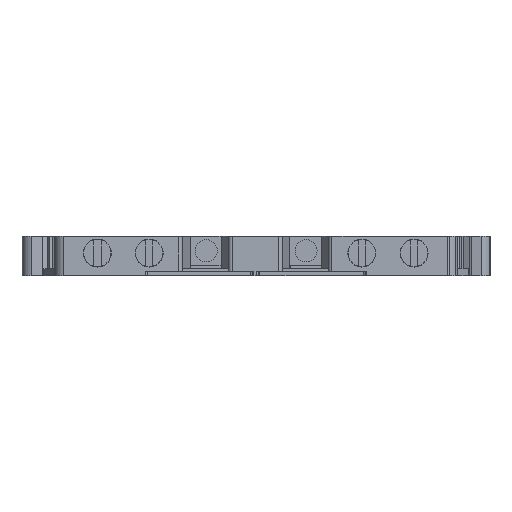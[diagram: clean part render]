
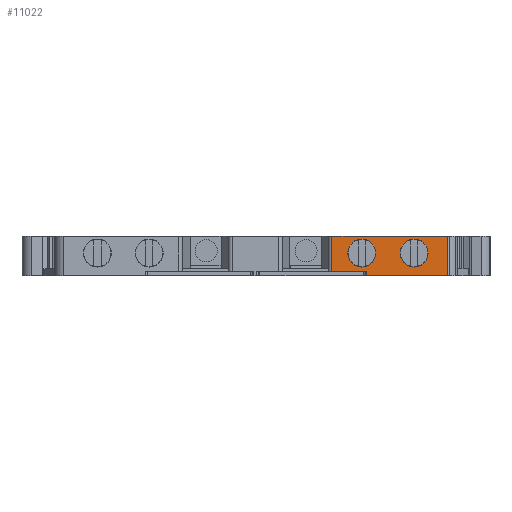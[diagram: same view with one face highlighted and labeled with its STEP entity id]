
A CAD part, front view. The second image highlights one B-rep face of the part: STEP entity #11022.
In plain terms, the highlighted planar face has unit normal (0, -1, 0).
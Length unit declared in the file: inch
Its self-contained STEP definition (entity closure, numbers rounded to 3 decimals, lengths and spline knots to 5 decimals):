
#343=DIRECTION('',(1.,0.,0.));
#344=VECTOR('',#343,11.04748);
#345=CARTESIAN_POINT('',(21.77623,-73.26484,0.));
#346=LINE('',#345,#344);
#1935=DIRECTION('',(0.,0.,-1.));
#1936=VECTOR('',#1935,4.8);
#1937=CARTESIAN_POINT('',(17.07655,-73.26484,5.4));
#1938=LINE('',#1937,#1936);
#3751=DIRECTION('',(0.,0.,-1.));
#3752=VECTOR('',#3751,0.6);
#3753=CARTESIAN_POINT('',(21.77623,-73.26484,0.6));
#3754=LINE('',#3753,#3752);
#3759=DIRECTION('',(-1.,0.,0.));
#3760=VECTOR('',#3759,4.69969);
#3761=CARTESIAN_POINT('',(21.77623,-73.26484,0.6));
#3762=LINE('',#3761,#3760);
#3763=DIRECTION('',(1.,0.,0.));
#3764=VECTOR('',#3763,15.74716);
#3765=CARTESIAN_POINT('',(17.07655,-73.26484,5.4));
#3766=LINE('',#3765,#3764);
#3767=CARTESIAN_POINT('',(21.14599,-73.26484,3.1));
#3768=DIRECTION('',(0.,-1.,0.));
#3769=DIRECTION('',(-1.,0.,0.));
#3770=AXIS2_PLACEMENT_3D('',#3767,#3768,#3769);
#3772=CARTESIAN_POINT('',(21.14599,-73.26484,3.1));
#3773=DIRECTION('',(0.,-1.,0.));
#3774=DIRECTION('',(1.,0.,0.));
#3775=AXIS2_PLACEMENT_3D('',#3772,#3773,#3774);
#3777=CARTESIAN_POINT('',(28.25168,-73.26278,3.1));
#3778=DIRECTION('',(0.,-1.,0.));
#3779=DIRECTION('',(-1.,0.,0.));
#3780=AXIS2_PLACEMENT_3D('',#3777,#3778,#3779);
#3782=CARTESIAN_POINT('',(28.25168,-73.26278,3.1));
#3783=DIRECTION('',(0.,-1.,0.));
#3784=DIRECTION('',(1.,0.,0.));
#3785=AXIS2_PLACEMENT_3D('',#3782,#3783,#3784);
#3787=DIRECTION('',(0.,0.,1.));
#3788=VECTOR('',#3787,5.4);
#3789=CARTESIAN_POINT('',(32.82371,-73.26484,0.));
#3790=LINE('',#3789,#3788);
#4956=CARTESIAN_POINT('',(21.77623,-73.26484,0.));
#4957=VERTEX_POINT('',#4956);
#4958=CARTESIAN_POINT('',(32.82371,-73.26484,0.));
#4959=VERTEX_POINT('',#4958);
#5273=CARTESIAN_POINT('',(32.82371,-73.26484,5.4));
#5274=VERTEX_POINT('',#5273);
#5275=CARTESIAN_POINT('',(17.07655,-73.26484,5.4));
#5276=VERTEX_POINT('',#5275);
#5985=CARTESIAN_POINT('',(21.77623,-73.26484,0.6));
#5986=VERTEX_POINT('',#5985);
#5987=CARTESIAN_POINT('',(17.07655,-73.26484,0.6));
#5988=VERTEX_POINT('',#5987);
#5989=CARTESIAN_POINT('',(19.24599,-73.26484,3.1));
#5990=CARTESIAN_POINT('',(23.04599,-73.26484,3.1));
#5991=VERTEX_POINT('',#5989);
#5992=VERTEX_POINT('',#5990);
#5993=CARTESIAN_POINT('',(26.35168,-73.26296,3.1));
#5994=CARTESIAN_POINT('',(30.15168,-73.26259,3.1));
#5995=VERTEX_POINT('',#5993);
#5996=VERTEX_POINT('',#5994);
#10996=CARTESIAN_POINT('',(16.57655,-73.26484,5.2));
#10997=DIRECTION('',(0.,-1.,0.));
#10998=DIRECTION('',(1.,0.,0.));
#10999=AXIS2_PLACEMENT_3D('',#10996,#10997,#10998);
#11000=PLANE('',#10999);
#11001=ORIENTED_EDGE('',*,*,#10988,.F.);
#11002=ORIENTED_EDGE('',*,*,#8357,.T.);
#11003=ORIENTED_EDGE('',*,*,#8333,.F.);
#11004=ORIENTED_EDGE('',*,*,#6930,.T.);
#11006=ORIENTED_EDGE('',*,*,#11005,.F.);
#11007=ORIENTED_EDGE('',*,*,#6517,.F.);
#11008=EDGE_LOOP('',(#11001,#11002,#11003,#11004,#11006,#11007));
#11009=FACE_OUTER_BOUND('',#11008,.F.);
#11011=ORIENTED_EDGE('',*,*,#11010,.T.);
#11013=ORIENTED_EDGE('',*,*,#11012,.T.);
#11014=EDGE_LOOP('',(#11011,#11013));
#11015=FACE_BOUND('',#11014,.F.);
#11017=ORIENTED_EDGE('',*,*,#11016,.T.);
#11019=ORIENTED_EDGE('',*,*,#11018,.T.);
#11020=EDGE_LOOP('',(#11017,#11019));
#11021=FACE_BOUND('',#11020,.F.);
#11022=ADVANCED_FACE('',(#11009,#11015,#11021),#11000,.T.);
#3771=CIRCLE('',#3770,1.9);
#3776=CIRCLE('',#3775,1.9);
#3781=CIRCLE('',#3780,1.9);
#3786=CIRCLE('',#3785,1.9);
#6517=EDGE_CURVE('',#4957,#4959,#346,.T.);
#6930=EDGE_CURVE('',#5276,#5274,#3766,.T.);
#8333=EDGE_CURVE('',#5276,#5988,#1938,.T.);
#8357=EDGE_CURVE('',#5986,#5988,#3762,.T.);
#10988=EDGE_CURVE('',#5986,#4957,#3754,.T.);
#11005=EDGE_CURVE('',#4959,#5274,#3790,.T.);
#11010=EDGE_CURVE('',#5991,#5992,#3771,.T.);
#11012=EDGE_CURVE('',#5992,#5991,#3776,.T.);
#11016=EDGE_CURVE('',#5995,#5996,#3781,.T.);
#11018=EDGE_CURVE('',#5996,#5995,#3786,.T.);
